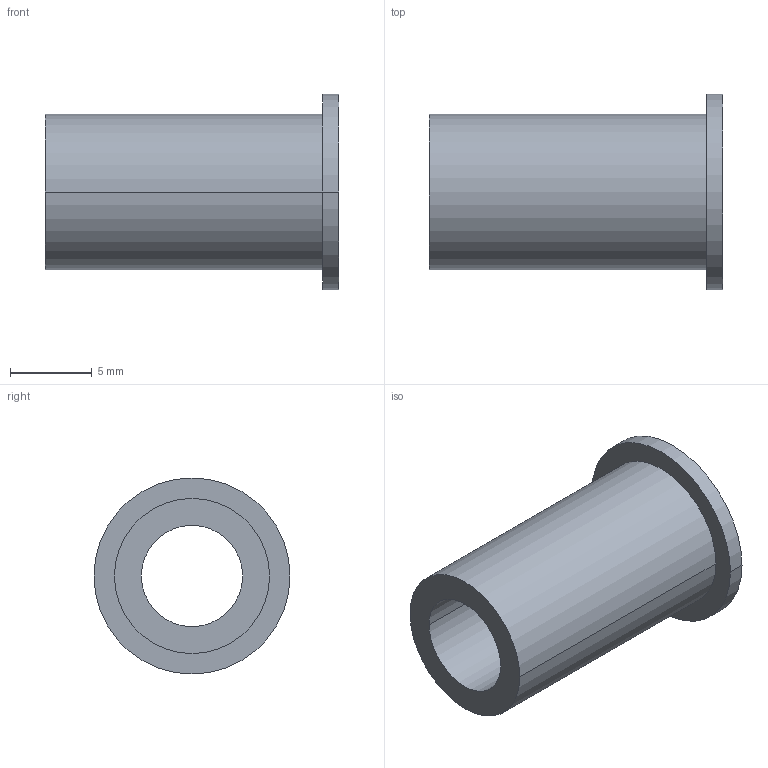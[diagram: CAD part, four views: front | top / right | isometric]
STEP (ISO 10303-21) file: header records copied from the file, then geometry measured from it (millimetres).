
FILE_DESCRIPTION(('Creo Elements/Direct Modeling STEP Export'),'2;1');
FILE_NAME('20120210_G13-09B.stp','2012-02-15T14:52:38',(''),(''),'Creo Elements/Direct Modeling STEP processor for AP214 (Solid Model)','Creo Elements/Direct Modeling 18.0B 02-Dec-2011 (C) Parametric Technology GmbH','');
FILE_SCHEMA(('AUTOMOTIVE_DESIGN { 1 0 10303 214 1 1 1 1 }'));
Length unit declared in the file: millimetre
Products named in the file (1): G13-09B
Bounding box: 18 x 12 x 12 mm (x, y, z)
Volume: 774.7 mm3; surface area: 1061.5 mm2
Topology: 1 solids, 1 shells, 9 faces, 18 edges, 12 vertices
Faces by surface type: cylinder 6, plane 3
Entity records: 240 total; most frequent: DIRECTION 38, ORIENTED_EDGE 36, CARTESIAN_POINT 34, EDGE_CURVE 18, AXIS2_PLACEMENT_3D 16, VERTEX_POINT 12, EDGE_LOOP 12, FACE_OUTER_BOUND 9
